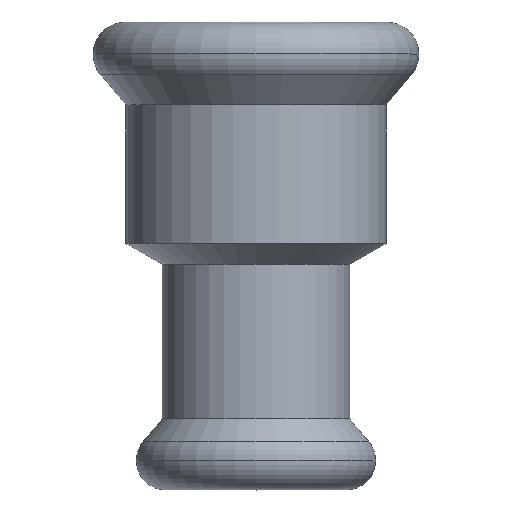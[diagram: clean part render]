
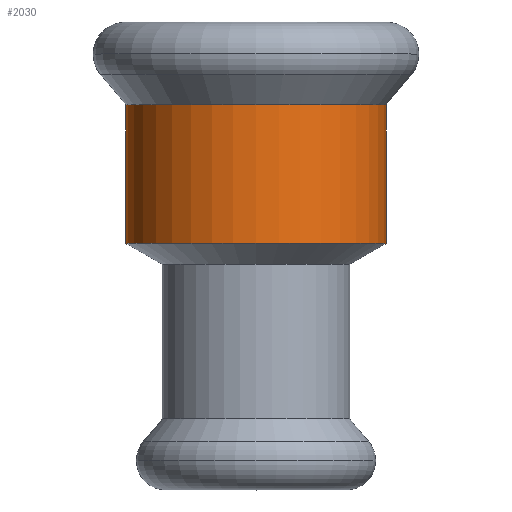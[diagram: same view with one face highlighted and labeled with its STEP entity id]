
A CAD part, top view. The second image highlights one B-rep face of the part: STEP entity #2030.
In plain terms, the highlighted cylindrical face has radius 12.65 mm (diameter 25.3 mm), a partial arc.
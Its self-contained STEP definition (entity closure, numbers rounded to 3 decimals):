
#1380=CARTESIAN_POINT('',(-306.641,56.893,0.));
#1390=VERTEX_POINT('',#1380);
#1570=CARTESIAN_POINT('',(-331.941,56.893,
0.));
#1580=VERTEX_POINT('',#1570);
#1610=CARTESIAN_POINT('',(-319.291,56.893,0.));
#1620=DIRECTION('',(0.,1.,0.));
#1630=DIRECTION('',(-1.,0.,0.));
#1640=AXIS2_PLACEMENT_3D('',#1610,#1620,#1630);
#1650=CIRCLE('',#1640,12.65);
#1710=CARTESIAN_POINT('',(-319.291,50.141,0.));
#1720=DIRECTION('',(0.,-1.,0.));
#1730=DIRECTION('',(-1.,0.,0.));
#1740=AXIS2_PLACEMENT_3D('',#1710,#1720,#1730);
#1750=CYLINDRICAL_SURFACE('',#1740,12.65);
#1760=CARTESIAN_POINT('',(-331.941,50.141,0.));
#1770=DIRECTION('',(0.,-1.,0.));
#1780=VECTOR('',#1770,1.);
#1790=LINE('',#1760,#1780);
#1800=CARTESIAN_POINT('',(-331.941,43.401,0.));
#1810=VERTEX_POINT('',#1800);
#1820=EDGE_CURVE('',#1580,#1810,#1790,.T.);
#1830=ORIENTED_EDGE('',*,*,#1820,.T.);
#1840=EDGE_CURVE('',#1580,#1390,#1650,.T.);
#1850=ORIENTED_EDGE('',*,*,#1840,.F.);
#1860=CARTESIAN_POINT('',(-306.641,50.141,
0.));
#1870=DIRECTION('',(0.,-1.,0.));
#1880=VECTOR('',#1870,1.);
#1890=LINE('',#1860,#1880);
#1900=CARTESIAN_POINT('',(-306.641,43.401,
0.));
#1910=VERTEX_POINT('',#1900);
#1920=EDGE_CURVE('',#1390,#1910,#1890,.T.);
#1930=ORIENTED_EDGE('',*,*,#1920,.F.);
#1940=CARTESIAN_POINT('',(-319.291,43.401,0.));
#1950=DIRECTION('',(0.,-1.,0.));
#1960=DIRECTION('',(-1.,0.,0.));
#1970=AXIS2_PLACEMENT_3D('',#1940,#1950,#1960);
#1980=CIRCLE('',#1970,12.65);
#1990=EDGE_CURVE('',#1910,#1810,#1980,.T.);
#2000=ORIENTED_EDGE('',*,*,#1990,.F.);
#2010=EDGE_LOOP('',(#2000,#1930,#1850,#1830));
#2020=FACE_OUTER_BOUND('',#2010,.T.);
#2030=ADVANCED_FACE('',(#2020),#1750,.T.);
